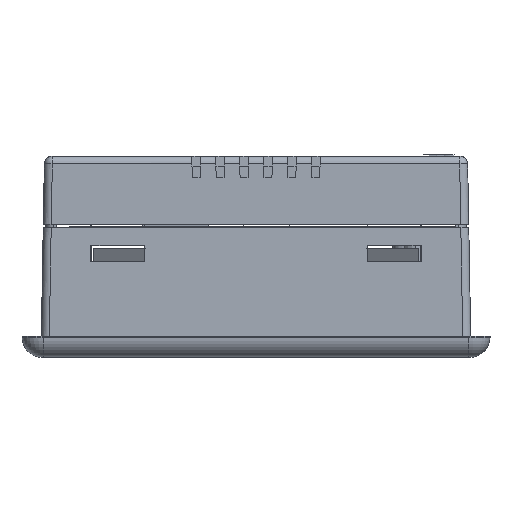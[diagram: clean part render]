
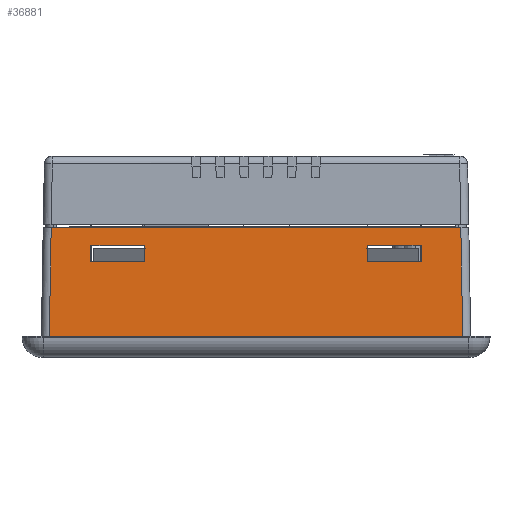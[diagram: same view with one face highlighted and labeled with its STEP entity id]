
A CAD part, left-side view. The second image highlights one B-rep face of the part: STEP entity #36881.
In plain terms, the highlighted planar face has unit normal (-1, 0, 0.018).
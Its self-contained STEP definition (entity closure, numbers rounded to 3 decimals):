
#806 = VECTOR ( 'NONE', #31789, 1000. ) ;
#813 = CARTESIAN_POINT ( 'NONE',  ( 19.214, 7.344, 23.297 ) ) ;
#1809 = CARTESIAN_POINT ( 'NONE',  ( 19.214, -2.744, 23.306 ) ) ;
#2162 = DIRECTION ( 'NONE',  ( 0., -1., 0. ) ) ;
#2504 = CARTESIAN_POINT ( 'NONE',  ( 19.213, 14.801, 23.274 ) ) ;
#2641 = PLANE ( 'NONE',  #54332 ) ;
#2714 = LINE ( 'NONE', #28318, #39085 ) ;
#3219 = CARTESIAN_POINT ( 'NONE',  ( 19.145, -54.745, 19.345 ) ) ;
#4036 = VERTEX_POINT ( 'NONE', #62280 ) ;
#4999 = ORIENTED_EDGE ( 'NONE', *, *, #41921, .T. ) ;
#6573 = CARTESIAN_POINT ( 'NONE',  ( 19.145, -2.745, 19.345 ) ) ;
#7243 = EDGE_LOOP ( 'NONE', ( #32505, #8976, #16134, #50735 ) ) ;
#7580 = EDGE_LOOP ( 'NONE', ( #17937, #19295, #66189, #78806 ) ) ;
#8740 = DIRECTION ( 'NONE',  ( 0.017, 0., 1. ) ) ;
#8976 = ORIENTED_EDGE ( 'NONE', *, *, #12309, .T. ) ;
#8988 = DIRECTION ( 'NONE',  ( -0.017, 0., -1. ) ) ;
#9072 = CARTESIAN_POINT ( 'NONE',  ( 19.145, 7.345, 19.345 ) ) ;
#9936 = LINE ( 'NONE', #49970, #28034 ) ;
#10483 = LINE ( 'NONE', #27653, #62804 ) ;
#10690 = LINE ( 'NONE', #49027, #44856 ) ;
#11966 = CARTESIAN_POINT ( 'NONE',  ( 19.091, -54.746, 16.254 ) ) ;
#12309 = EDGE_CURVE ( 'NONE', #18791, #18010, #63157, .T. ) ;
#12337 = VERTEX_POINT ( 'NONE', #3219 ) ;
#14516 = CARTESIAN_POINT ( 'NONE',  ( 18.847, 15.167, 2.3 ) ) ;
#15413 = CARTESIAN_POINT ( 'NONE',  ( 19.091, -44.654, 16.254 ) ) ;
#16134 = ORIENTED_EDGE ( 'NONE', *, *, #46074, .T. ) ;
#16418 = EDGE_CURVE ( 'NONE', #12337, #18791, #10483, .T. ) ;
#16470 = LINE ( 'NONE', #1809, #50718 ) ;
#16872 = ORIENTED_EDGE ( 'NONE', *, *, #58560, .F. ) ;
#17521 = EDGE_CURVE ( 'NONE', #51217, #63999, #16470, .T. ) ;
#17937 = ORIENTED_EDGE ( 'NONE', *, *, #17521, .T. ) ;
#18010 = VERTEX_POINT ( 'NONE', #15413 ) ;
#18791 = VERTEX_POINT ( 'NONE', #11966 ) ;
#19295 = ORIENTED_EDGE ( 'NONE', *, *, #27616, .T. ) ;
#19362 = FACE_BOUND ( 'NONE', #7243, .T. ) ;
#19951 = VERTEX_POINT ( 'NONE', #9072 ) ;
#20274 = EDGE_CURVE ( 'NONE', #64610, #12337, #9936, .T. ) ;
#25434 = EDGE_CURVE ( 'NONE', #76165, #83818, #2714, .T. ) ;
#26612 = CARTESIAN_POINT ( 'NONE',  ( 19.203, -62.7, 22.65 ) ) ;
#27616 = EDGE_CURVE ( 'NONE', #63999, #73499, #70510, .T. ) ;
#27653 = CARTESIAN_POINT ( 'NONE',  ( 19.214, -54.744, 23.322 ) ) ;
#28034 = VECTOR ( 'NONE', #2162, 1000. ) ;
#28318 = CARTESIAN_POINT ( 'NONE',  ( 18.847, 16.3, 2.3 ) ) ;
#30819 = CARTESIAN_POINT ( 'NONE',  ( 19.145, -44.655, 19.345 ) ) ;
#31536 = CARTESIAN_POINT ( 'NONE',  ( 19.091, 16.3, 16.254 ) ) ;
#31789 = DIRECTION ( 'NONE',  ( 0.017, 0.017, 1. ) ) ;
#32505 = ORIENTED_EDGE ( 'NONE', *, *, #16418, .T. ) ;
#33005 = ORIENTED_EDGE ( 'NONE', *, *, #25434, .F. ) ;
#34198 = VECTOR ( 'NONE', #41723, 1000. ) ;
#35653 = VECTOR ( 'NONE', #74472, 1000. ) ;
#36154 = CARTESIAN_POINT ( 'NONE',  ( 18.847, -62.567, 2.3 ) ) ;
#36355 = LINE ( 'NONE', #813, #34198 ) ;
#36881 = ADVANCED_FACE ( 'NONE', ( #71768, #19362, #37603 ), #2641, .T. ) ;
#36913 = CARTESIAN_POINT ( 'NONE',  ( 19.091, 7.346, 16.254 ) ) ;
#37031 = DIRECTION ( 'NONE',  ( -1., 0., 0.017 ) ) ;
#37193 = LINE ( 'NONE', #51832, #806 ) ;
#37603 = FACE_OUTER_BOUND ( 'NONE', #42061, .T. ) ;
#39085 = VECTOR ( 'NONE', #62391, 1000. ) ;
#41561 = VERTEX_POINT ( 'NONE', #79929 ) ;
#41723 = DIRECTION ( 'NONE',  ( 0.017, 0., 1. ) ) ;
#41921 = EDGE_CURVE ( 'NONE', #41561, #83818, #50988, .T. ) ;
#42061 = EDGE_LOOP ( 'NONE', ( #33005, #45573, #16872, #4999 ) ) ;
#43703 = EDGE_CURVE ( 'NONE', #73499, #19951, #36355, .T. ) ;
#44856 = VECTOR ( 'NONE', #69322, 1000. ) ;
#45573 = ORIENTED_EDGE ( 'NONE', *, *, #84051, .T. ) ;
#46074 = EDGE_CURVE ( 'NONE', #18010, #64610, #81959, .T. ) ;
#48882 = DIRECTION ( 'NONE',  ( 0., 1., 0. ) ) ;
#49027 = CARTESIAN_POINT ( 'NONE',  ( 19.145, 16.3, 19.345 ) ) ;
#49970 = CARTESIAN_POINT ( 'NONE',  ( 19.145, 16.3, 19.345 ) ) ;
#50718 = VECTOR ( 'NONE', #8988, 1000. ) ;
#50735 = ORIENTED_EDGE ( 'NONE', *, *, #20274, .T. ) ;
#50988 = LINE ( 'NONE', #2504, #66964 ) ;
#51217 = VERTEX_POINT ( 'NONE', #6573 ) ;
#51832 = CARTESIAN_POINT ( 'NONE',  ( 19.238, -62.176, 24.669 ) ) ;
#52163 = DIRECTION ( 'NONE',  ( 0., 1., 0. ) ) ;
#54332 = AXIS2_PLACEMENT_3D ( 'NONE', #77903, #37031, #84749 ) ;
#55800 = DIRECTION ( 'NONE',  ( -0.017, 0., -1. ) ) ;
#56518 = CARTESIAN_POINT ( 'NONE',  ( 19.214, -44.656, 23.281 ) ) ;
#58560 = EDGE_CURVE ( 'NONE', #41561, #4036, #88024, .T. ) ;
#60904 = CARTESIAN_POINT ( 'NONE',  ( 19.091, -2.746, 16.254 ) ) ;
#62280 = CARTESIAN_POINT ( 'NONE',  ( 19.203, -62.212, 22.65 ) ) ;
#62391 = DIRECTION ( 'NONE',  ( 0., 1., 0. ) ) ;
#62804 = VECTOR ( 'NONE', #55800, 1000. ) ;
#63157 = LINE ( 'NONE', #85025, #79244 ) ;
#63775 = VECTOR ( 'NONE', #8740, 1000. ) ;
#63999 = VERTEX_POINT ( 'NONE', #60904 ) ;
#64610 = VERTEX_POINT ( 'NONE', #30819 ) ;
#66189 = ORIENTED_EDGE ( 'NONE', *, *, #43703, .T. ) ;
#66964 = VECTOR ( 'NONE', #70891, 1000. ) ;
#68358 = VECTOR ( 'NONE', #52163, 1000. ) ;
#69322 = DIRECTION ( 'NONE',  ( 0., -1., 0. ) ) ;
#70510 = LINE ( 'NONE', #31536, #68358 ) ;
#70891 = DIRECTION ( 'NONE',  ( -0.017, 0.017, -1. ) ) ;
#71768 = FACE_BOUND ( 'NONE', #7580, .T. ) ;
#73499 = VERTEX_POINT ( 'NONE', #36913 ) ;
#74472 = DIRECTION ( 'NONE',  ( 0., -1., 0. ) ) ;
#76165 = VERTEX_POINT ( 'NONE', #36154 ) ;
#77903 = CARTESIAN_POINT ( 'NONE',  ( 19.214, 16.3, 23.3 ) ) ;
#78806 = ORIENTED_EDGE ( 'NONE', *, *, #86709, .T. ) ;
#79244 = VECTOR ( 'NONE', #48882, 1000. ) ;
#79929 = CARTESIAN_POINT ( 'NONE',  ( 19.203, 14.812, 22.65 ) ) ;
#81959 = LINE ( 'NONE', #56518, #63775 ) ;
#83818 = VERTEX_POINT ( 'NONE', #14516 ) ;
#84051 = EDGE_CURVE ( 'NONE', #76165, #4036, #37193, .T. ) ;
#84749 = DIRECTION ( 'NONE',  ( -0.017, 0., -1. ) ) ;
#85025 = CARTESIAN_POINT ( 'NONE',  ( 19.091, 16.3, 16.254 ) ) ;
#86709 = EDGE_CURVE ( 'NONE', #19951, #51217, #10690, .T. ) ;
#88024 = LINE ( 'NONE', #26612, #35653 ) ;
